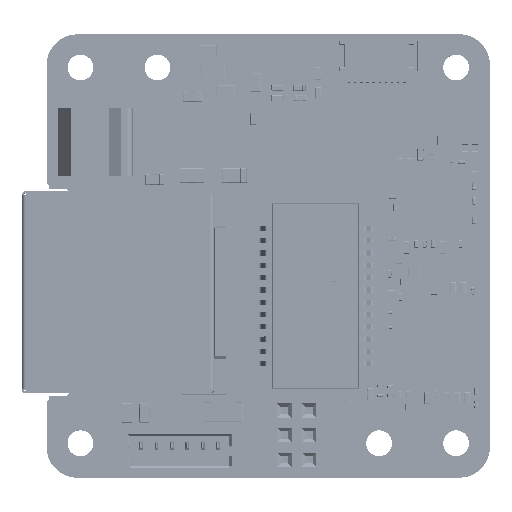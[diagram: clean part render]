
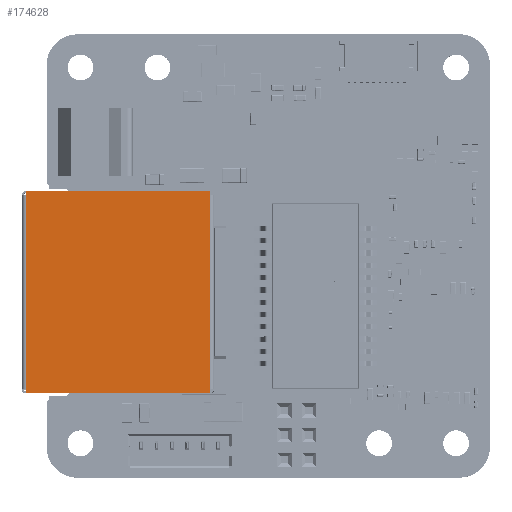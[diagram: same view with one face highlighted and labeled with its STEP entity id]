
A CAD part, top view. The second image highlights one B-rep face of the part: STEP entity #174628.
In plain terms, the highlighted planar face has unit normal (0, 0, 1).
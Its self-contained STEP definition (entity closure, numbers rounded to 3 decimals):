
#24137=FACE_OUTER_BOUND('',#35011,.T.);
#35011=EDGE_LOOP('',(#145380,#145381,#145382,#145383,#145384,#145385,#145386,
#145387));
#49158=LINE('',#290211,#64459);
#49162=LINE('',#290220,#64463);
#49167=LINE('',#290230,#64468);
#49168=LINE('',#290233,#64469);
#49173=LINE('',#290242,#64474);
#49174=LINE('',#290244,#64475);
#49179=LINE('',#290251,#64480);
#49180=LINE('',#290252,#64481);
#64459=VECTOR('',#241864,1.);
#64463=VECTOR('',#241870,1.);
#64468=VECTOR('',#241877,1.);
#64469=VECTOR('',#241880,1.);
#64474=VECTOR('',#241887,1.);
#64475=VECTOR('',#241890,1.);
#64480=VECTOR('',#241899,1.);
#64481=VECTOR('',#241900,1.);
#78812=VERTEX_POINT('',#290208);
#78813=VERTEX_POINT('',#290210);
#78816=VERTEX_POINT('',#290217);
#78817=VERTEX_POINT('',#290219);
#78819=VERTEX_POINT('',#290224);
#78821=VERTEX_POINT('',#290228);
#78822=VERTEX_POINT('',#290232);
#78825=VERTEX_POINT('',#290239);
#101382=EDGE_CURVE('',#78813,#78812,#49158,.T.);
#101386=EDGE_CURVE('',#78816,#78817,#49162,.T.);
#101391=EDGE_CURVE('',#78819,#78821,#49167,.T.);
#101392=EDGE_CURVE('',#78822,#78813,#49168,.T.);
#101397=EDGE_CURVE('',#78822,#78825,#49173,.T.);
#101398=EDGE_CURVE('',#78821,#78817,#49174,.T.);
#101403=EDGE_CURVE('',#78819,#78812,#49179,.T.);
#101404=EDGE_CURVE('',#78825,#78816,#49180,.T.);
#145380=ORIENTED_EDGE('',*,*,#101397,.F.);
#145381=ORIENTED_EDGE('',*,*,#101392,.T.);
#145382=ORIENTED_EDGE('',*,*,#101382,.T.);
#145383=ORIENTED_EDGE('',*,*,#101403,.F.);
#145384=ORIENTED_EDGE('',*,*,#101391,.T.);
#145385=ORIENTED_EDGE('',*,*,#101398,.T.);
#145386=ORIENTED_EDGE('',*,*,#101386,.F.);
#145387=ORIENTED_EDGE('',*,*,#101404,.F.);
#154271=PLANE('',#193131);
#174628=ADVANCED_FACE('',(#24137),#154271,.F.);
#193131=AXIS2_PLACEMENT_3D('',#290250,#241897,#241898);
#241864=DIRECTION('',(0.,1.,0.));
#241870=DIRECTION('',(0.,1.,0.));
#241877=DIRECTION('',(0.,1.,0.));
#241880=DIRECTION('',(1.,0.,0.));
#241887=DIRECTION('',(0.,1.,0.));
#241890=DIRECTION('',(-1.,0.,0.));
#241897=DIRECTION('center_axis',(0.,0.,
-1.));
#241898=DIRECTION('ref_axis',(1.,0.,0.));
#241899=DIRECTION('',(0.,-1.,0.));
#241900=DIRECTION('',(0.,1.,0.));
#290208=CARTESIAN_POINT('',(13.305,7.1,13.263));
#290210=CARTESIAN_POINT('',(13.305,6.8,13.263));
#290211=CARTESIAN_POINT('',(13.305,15.,13.263));
#290217=CARTESIAN_POINT('',(-1.695,22.9,13.263));
#290219=CARTESIAN_POINT('',(-1.695,23.2,13.263));
#290220=CARTESIAN_POINT('',(-1.695,15.,13.263));
#290224=CARTESIAN_POINT('',(13.305,22.9,13.263));
#290228=CARTESIAN_POINT('',(13.305,23.2,13.263));
#290230=CARTESIAN_POINT('',(13.305,15.,13.263));
#290232=CARTESIAN_POINT('',(-1.695,6.8,13.263));
#290233=CARTESIAN_POINT('',(5.73,6.8,13.263));
#290239=CARTESIAN_POINT('',(-1.695,7.1,13.263));
#290242=CARTESIAN_POINT('',(-1.695,15.,13.263));
#290244=CARTESIAN_POINT('',(5.73,23.2,13.263));
#290250=CARTESIAN_POINT('Origin',(5.73,15.,13.263));
#290251=CARTESIAN_POINT('',(13.305,15.,13.263));
#290252=CARTESIAN_POINT('',(-1.695,15.,13.263));
